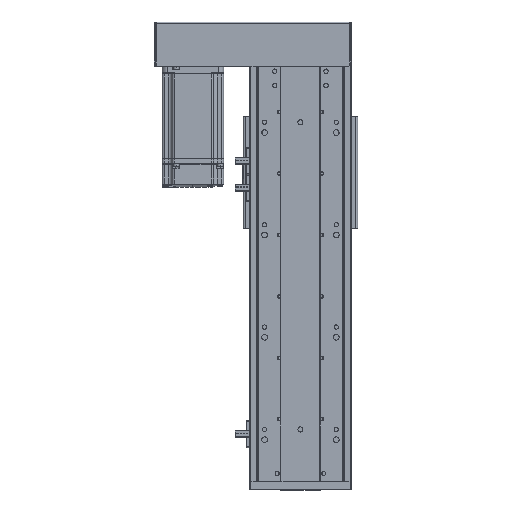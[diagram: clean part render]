
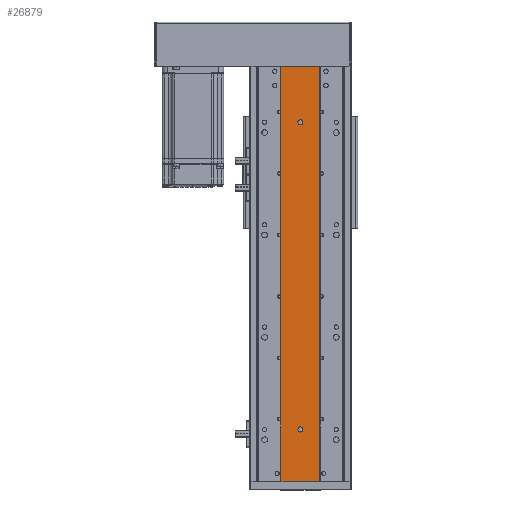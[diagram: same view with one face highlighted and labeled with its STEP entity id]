
A CAD part, top view. The second image highlights one B-rep face of the part: STEP entity #26879.
In plain terms, the highlighted planar face has unit normal (0, 0, 1).
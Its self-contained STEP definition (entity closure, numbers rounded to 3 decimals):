
#15 = EDGE_CURVE ( 'NONE', #38937, #38932, #4518, .T. ) ;
#27 = EDGE_CURVE ( 'NONE', #38885, #38903, #4520, .T. ) ;
#517 = EDGE_CURVE ( 'NONE', #20393, #20373, #27651, .T. ) ;
#538 = EDGE_CURVE ( 'NONE', #20433, #20373, #27726, .T. ) ;
#551 = EDGE_CURVE ( 'NONE', #38903, #38885, #27688, .T. ) ;
#555 = EDGE_CURVE ( 'NONE', #20486, #20393, #27736, .T. ) ;
#613 = EDGE_CURVE ( 'NONE', #38932, #38937, #27815, .T. ) ;
#618 = EDGE_CURVE ( 'NONE', #20486, #20433, #27821, .T. ) ;
#3317 = ORIENTED_EDGE ( 'NONE', *, *, #15, .T. ) ;
#3342 = ORIENTED_EDGE ( 'NONE', *, *, #618, .F. ) ;
#3353 = ORIENTED_EDGE ( 'NONE', *, *, #517, .T. ) ;
#3363 = ORIENTED_EDGE ( 'NONE', *, *, #555, .T. ) ;
#3367 = ORIENTED_EDGE ( 'NONE', *, *, #27, .T. ) ;
#4518 = CIRCLE ( 'NONE', #8598, 2.5 ) ;
#4520 = CIRCLE ( 'NONE', #8611, 2.5 ) ;
#5790 = DIRECTION ( 'NONE',  ( 1., 0., 0. ) ) ;
#5797 = CARTESIAN_POINT ( 'NONE',  ( -10645.079, 0., -17040.86 ) ) ;
#5833 = CARTESIAN_POINT ( 'NONE',  ( -10607.079, 406., -17040.86 ) ) ;
#5871 = DIRECTION ( 'NONE',  ( 0., 0., -1. ) ) ;
#5875 = CARTESIAN_POINT ( 'NONE',  ( -10626.079, 51., -17040.86 ) ) ;
#5888 = CARTESIAN_POINT ( 'NONE',  ( -10645.079, 406., -17040.86 ) ) ;
#5893 = DIRECTION ( 'NONE',  ( -1., 0., 0. ) ) ;
#5901 = DIRECTION ( 'NONE',  ( 0., -1., 0. ) ) ;
#5919 = DIRECTION ( 'NONE',  ( 0., -1., 0. ) ) ;
#8598 = AXIS2_PLACEMENT_3D ( 'NONE', #25970, #25992, #25995 ) ;
#8611 = AXIS2_PLACEMENT_3D ( 'NONE', #26102, #26103, #26105 ) ;
#8860 = AXIS2_PLACEMENT_3D ( 'NONE', #5875, #5871, #5893 ) ;
#8864 = AXIS2_PLACEMENT_3D ( 'NONE', #41424, #41413, #41425 ) ;
#16566 = DIRECTION ( 'NONE',  ( -1., 0., 0. ) ) ;
#17184 = PLANE ( 'NONE',  #42926 ) ;
#17190 = CARTESIAN_POINT ( 'NONE',  ( -10645.079, 406., -17040.86 ) ) ;
#17319 = DIRECTION ( 'NONE',  ( 0., 0., -1. ) ) ;
#18165 = FACE_BOUND ( 'NONE', #38557, .T. ) ;
#18187 = FACE_BOUND ( 'NONE', #38598, .T. ) ;
#18196 = FACE_OUTER_BOUND ( 'NONE', #38527, .T. ) ;
#20373 = VERTEX_POINT ( 'NONE', #31486 ) ;
#20393 = VERTEX_POINT ( 'NONE', #31463 ) ;
#20433 = VERTEX_POINT ( 'NONE', #31464 ) ;
#20486 = VERTEX_POINT ( 'NONE', #31462 ) ;
#21621 = CARTESIAN_POINT ( 'NONE',  ( -10628.579, 51., -17040.86 ) ) ;
#21631 = CARTESIAN_POINT ( 'NONE',  ( -10623.579, 51., -17040.86 ) ) ;
#21632 = CARTESIAN_POINT ( 'NONE',  ( -10628.579, 351., -17040.86 ) ) ;
#21637 = CARTESIAN_POINT ( 'NONE',  ( -10623.579, 351., -17040.86 ) ) ;
#25970 = CARTESIAN_POINT ( 'NONE',  ( -10626.079, 351., -17040.86 ) ) ;
#25992 = DIRECTION ( 'NONE',  ( 0., 0., -1. ) ) ;
#25995 = DIRECTION ( 'NONE',  ( -1., 0., 0. ) ) ;
#26102 = CARTESIAN_POINT ( 'NONE',  ( -10626.079, 51., -17040.86 ) ) ;
#26103 = DIRECTION ( 'NONE',  ( 0., 0., -1. ) ) ;
#26105 = DIRECTION ( 'NONE',  ( -1., 0., 0. ) ) ;
#26879 = ADVANCED_FACE ( 'NONE', ( #18165, #18187, #18196 ), #17184, .F. ) ;
#27651 = LINE ( 'NONE', #5797, #27652 ) ;
#27652 = VECTOR ( 'NONE', #5790, 1000. ) ;
#27688 = CIRCLE ( 'NONE', #8860, 2.5 ) ;
#27702 = VECTOR ( 'NONE', #5901, 1000. ) ;
#27719 = VECTOR ( 'NONE', #5919, 1000. ) ;
#27726 = LINE ( 'NONE', #5833, #27702 ) ;
#27736 = LINE ( 'NONE', #5888, #27719 ) ;
#27815 = CIRCLE ( 'NONE', #8864, 2.5 ) ;
#27821 = LINE ( 'NONE', #41416, #27830 ) ;
#27830 = VECTOR ( 'NONE', #41423, 1000. ) ;
#31462 = CARTESIAN_POINT ( 'NONE',  ( -10645.079, 406., -17040.86 ) ) ;
#31463 = CARTESIAN_POINT ( 'NONE',  ( -10645.079, 0., -17040.86 ) ) ;
#31464 = CARTESIAN_POINT ( 'NONE',  ( -10607.079, 406., -17040.86 ) ) ;
#31486 = CARTESIAN_POINT ( 'NONE',  ( -10607.079, 0., -17040.86 ) ) ;
#38527 = EDGE_LOOP ( 'NONE', ( #3353, #39430, #3342, #3363 ) ) ;
#38557 = EDGE_LOOP ( 'NONE', ( #3317, #39416 ) ) ;
#38598 = EDGE_LOOP ( 'NONE', ( #3367, #39421 ) ) ;
#38885 = VERTEX_POINT ( 'NONE', #21631 ) ;
#38903 = VERTEX_POINT ( 'NONE', #21621 ) ;
#38932 = VERTEX_POINT ( 'NONE', #21632 ) ;
#38937 = VERTEX_POINT ( 'NONE', #21637 ) ;
#39416 = ORIENTED_EDGE ( 'NONE', *, *, #613, .T. ) ;
#39421 = ORIENTED_EDGE ( 'NONE', *, *, #551, .T. ) ;
#39430 = ORIENTED_EDGE ( 'NONE', *, *, #538, .F. ) ;
#41413 = DIRECTION ( 'NONE',  ( 0., 0., -1. ) ) ;
#41416 = CARTESIAN_POINT ( 'NONE',  ( -10645.079, 406., -17040.86 ) ) ;
#41423 = DIRECTION ( 'NONE',  ( 1., 0., 0. ) ) ;
#41424 = CARTESIAN_POINT ( 'NONE',  ( -10626.079, 351., -17040.86 ) ) ;
#41425 = DIRECTION ( 'NONE',  ( -1., 0., 0. ) ) ;
#42926 = AXIS2_PLACEMENT_3D ( 'NONE', #17190, #17319, #16566 ) ;
